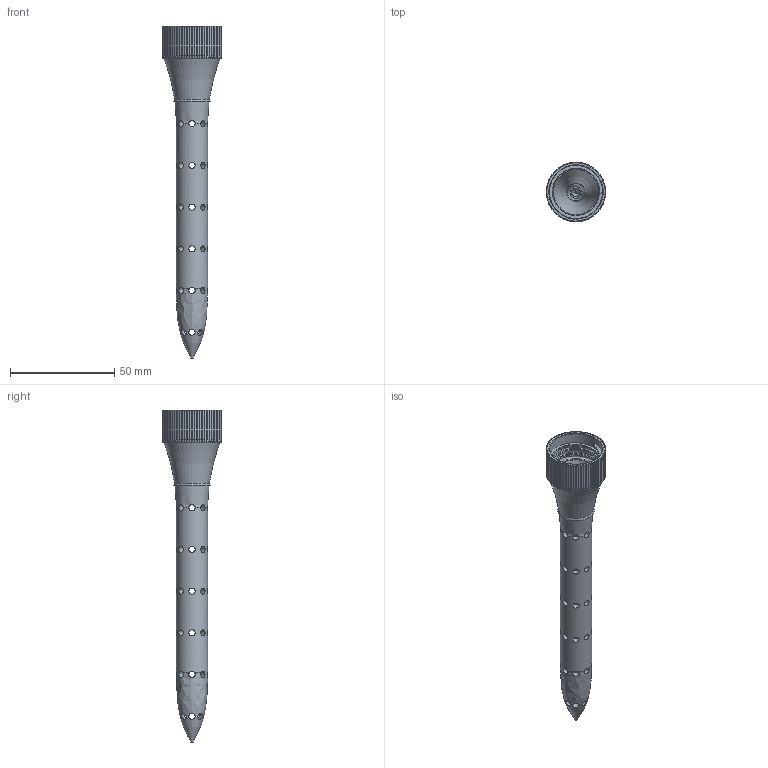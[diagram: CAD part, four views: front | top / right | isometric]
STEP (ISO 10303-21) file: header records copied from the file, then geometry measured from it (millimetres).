
FILE_DESCRIPTION(/* description */ ('CAx-IF Rec.Pracs.---Representation and Presentation of Product Manufacturing Information (PMI)---4.0---2014-10-13','CAx-IF Rec.Pracs.---3D Tessellated Geometry---0.4---2014-09-14','2;1'),/* implementation_level */ '2;1');
FILE_NAME(/* name */ 'RootCanalWithCap',/* time_stamp */ '2025-06-19T20:01:52+02:00',/* author */ (''),/* organization */ (''),/* preprocessor_version */ 'ST-DEVELOPER v20',/* originating_system */ 'SIEMENS PLM Software NX2406.5001',/* authorisation */ $);
FILE_SCHEMA (('AP242_MANAGED_MODEL_BASED_3D_ENGINEERING_MIM_LF { 1 0 10303 442 3 1 4 }'));
Length unit declared in the file: millimetre
Products named in the file (3): RootCanalWithCap; BottleCapGat; RootCanalCap
Assembly tree (2 placements, depth 2):
  RootCanalWithCap
    BottleCapGat
    RootCanalCap
Bounding box: 28.5 x 28.5 x 159.24 mm (x, y, z)
Volume: 18457.8 mm3; surface area: 16968.2 mm2
Topology: 3 solids, 3 shells, 295 faces, 964 edges, 629 vertices
Faces by surface type: plane 152, cylinder 125, bspline 14, torus 3, cone 1
Full cylindrical faces by diameter (mm): 1 x1, 3 x48, 9 x1, 15 x1, 21.748 x1, 25.5 x1
Entity records: 13513 total; most frequent: CARTESIAN_POINT 6174, ORIENTED_EDGE 1722, DIRECTION 989, EDGE_CURVE 861, VERTEX_POINT 597, B_SPLINE_CURVE_WITH_KNOTS 585, EDGE_LOOP 420, FACE_BOUND 420
